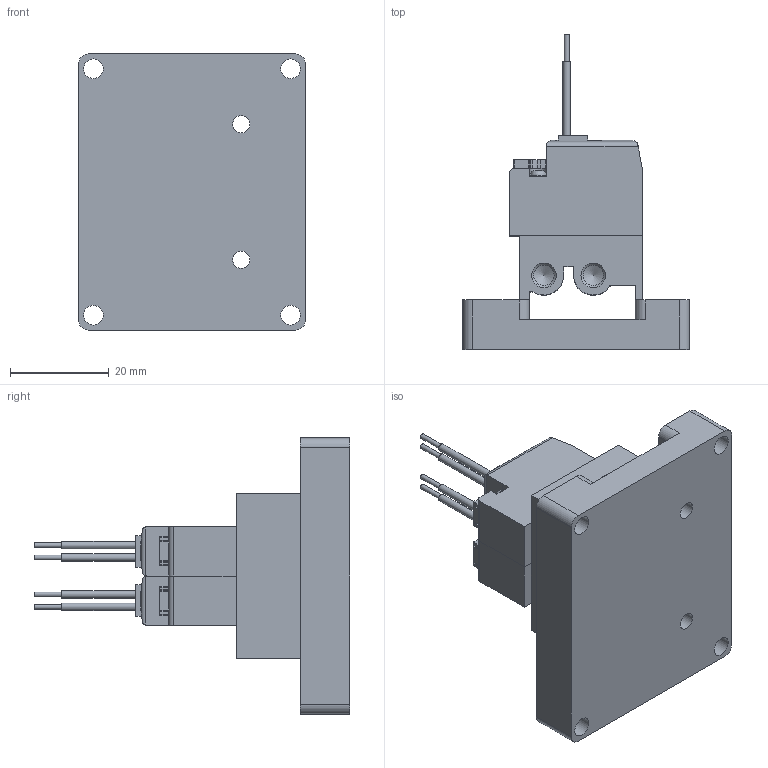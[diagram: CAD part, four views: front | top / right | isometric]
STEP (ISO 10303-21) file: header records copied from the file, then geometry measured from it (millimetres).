
FILE_DESCRIPTION(/* description */ ('V1_4-3 Port Solenoid Valve/Direct Operated:Standard Type/Large Flow Type (Type A)'),/* implementation_level */ '2;1');
FILE_NAME(/* name */ 'D:\OneDrive - Vysoké učení technické v Brně\4-PROJEKTY\3_Pneumobil\3-PNEUCAR\CAD\STARTER KIT\V114-5GU.stp',/* time_stamp */ '2023-12-20T16:28:08+01:00',/* author */ ('Michalec'),/* organization */ (''),/* preprocessor_version */ 'ST-DEVELOPER v19',/* originating_system */ 'Autodesk Inventor 2023',/* authorisation */ '');
FILE_SCHEMA (('AUTOMOTIVE_DESIGN { 1 0 10303 214 3 1 1 }'));
Length unit declared in the file: millimetre
Products named in the file (4): V114-5GU; VV100-S41-02-M5; V14-5G_VALVE; Drzak_ventily
Assembly tree (4 placements, depth 2):
  V114-5GU
    V14-5G_VALVE  x2
    VV100-S41-02-M5
    Drzak_ventily
Bounding box: 46 x 63.9 x 56 mm (x, y, z)
Volume: 38483.8 mm3; surface area: 16319.3 mm2
Topology: 4 solids, 4 shells, 341 faces, 895 edges, 586 vertices
Faces by surface type: plane 209, cylinder 116, cone 12, bspline 4
Full cylindrical faces by diameter (mm): 1 x4, 1.5 x4, 3.2 x4, 3.5 x4, 4 x4, 4.134 x6
Entity records: 8019 total; most frequent: CARTESIAN_POINT 1483, DIRECTION 1352, ORIENTED_EDGE 1312, EDGE_CURVE 656, LINE 454, VECTOR 454, AXIS2_PLACEMENT_3D 449, VERTEX_POINT 434
